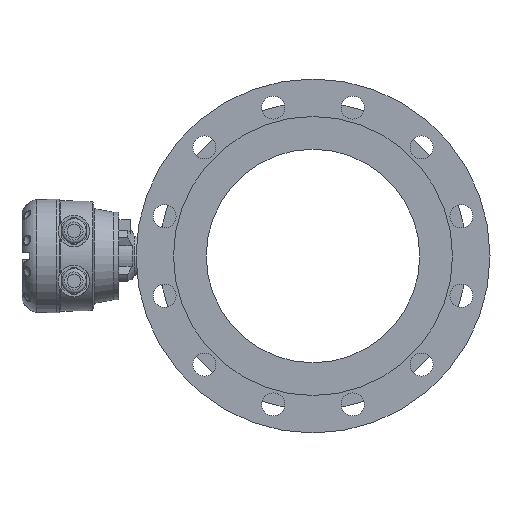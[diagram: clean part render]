
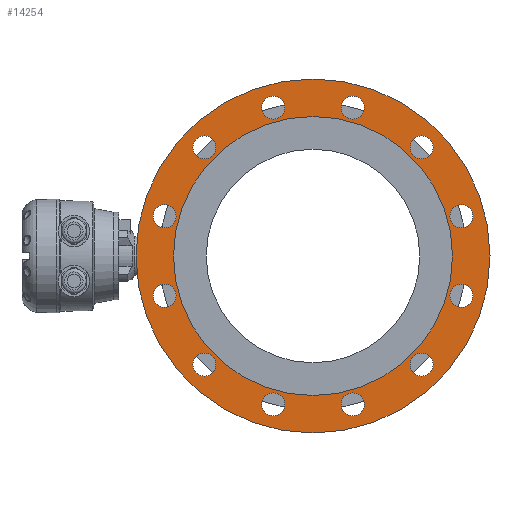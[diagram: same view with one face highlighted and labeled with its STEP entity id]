
A CAD part, left-side view. The second image highlights one B-rep face of the part: STEP entity #14254.
In plain terms, the highlighted planar face has unit normal (-1, 0, 0).
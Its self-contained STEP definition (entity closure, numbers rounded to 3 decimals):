
#1563 = EDGE_CURVE ( 'NONE', #5989, #5989, #8897, .T. ) ;
#1615 = EDGE_CURVE ( 'NONE', #6005, #6005, #8954, .T. ) ;
#3772 = EDGE_CURVE ( 'NONE', #6057, #6057, #6652, .T. ) ;
#3794 = EDGE_CURVE ( 'NONE', #6061, #6061, #6675, .T. ) ;
#3802 = EDGE_CURVE ( 'NONE', #6065, #6065, #6682, .T. ) ;
#3905 = EDGE_CURVE ( 'NONE', #6089, #6089, #6760, .T. ) ;
#3969 = EDGE_CURVE ( 'NONE', #6097, #6097, #6812, .T. ) ;
#4000 = EDGE_CURVE ( 'NONE', #6103, #6103, #6857, .T. ) ;
#4019 = EDGE_CURVE ( 'NONE', #6109, #6109, #6882, .T. ) ;
#4037 = EDGE_CURVE ( 'NONE', #6117, #6117, #6909, .T. ) ;
#4047 = EDGE_CURVE ( 'NONE', #6119, #6119, #6912, .T. ) ;
#4069 = EDGE_CURVE ( 'NONE', #6121, #6121, #6920, .T. ) ;
#4320 = EDGE_CURVE ( 'NONE', #6145, #6145, #7063, .T. ) ;
#4475 = DIRECTION ( 'NONE',  ( 0., 0., 1. ) ) ;
#4480 = DIRECTION ( 'NONE',  ( -1., 0., 0. ) ) ;
#4505 = CARTESIAN_POINT ( 'NONE',  ( -164.805, -322.491, 27.633 ) ) ;
#5082 = PLANE ( 'NONE',  #12864 ) ;
#5086 = CARTESIAN_POINT ( 'NONE',  ( -164.805, -180.017, -10.543 ) ) ;
#5087 = DIRECTION ( 'NONE',  ( -1., 0., 0. ) ) ;
#5088 = DIRECTION ( 'NONE',  ( 0., 0., -1. ) ) ;
#5989 = VERTEX_POINT ( 'NONE', #5990 ) ;
#5990 = CARTESIAN_POINT ( 'NONE',  ( -164.805, -218.193, -142.017 ) ) ;
#6005 = VERTEX_POINT ( 'NONE', #6006 ) ;
#6006 = CARTESIAN_POINT ( 'NONE',  ( -164.805, -322.491, 38.633 ) ) ;
#6057 = VERTEX_POINT ( 'NONE', #6058 ) ;
#6058 = CARTESIAN_POINT ( 'NONE',  ( -164.805, -141.841, 142.931 ) ) ;
#6061 = VERTEX_POINT ( 'NONE', #6062 ) ;
#6062 = CARTESIAN_POINT ( 'NONE',  ( -164.805, -37.543, 38.633 ) ) ;
#6065 = VERTEX_POINT ( 'NONE', #6066 ) ;
#6066 = CARTESIAN_POINT ( 'NONE',  ( -164.805, -218.193, 142.931 ) ) ;
#6089 = VERTEX_POINT ( 'NONE', #6090 ) ;
#6090 = CARTESIAN_POINT ( 'NONE',  ( -164.805, -284.315, 104.756 ) ) ;
#6097 = VERTEX_POINT ( 'NONE', #6098 ) ;
#6098 = CARTESIAN_POINT ( 'NONE',  ( -164.805, -37.543, -37.719 ) ) ;
#6103 = VERTEX_POINT ( 'NONE', #6104 ) ;
#6104 = CARTESIAN_POINT ( 'NONE',  ( -164.805, -141.841, -142.017 ) ) ;
#6109 = VERTEX_POINT ( 'NONE', #6110 ) ;
#6110 = CARTESIAN_POINT ( 'NONE',  ( -164.805, -284.315, -103.841 ) ) ;
#6117 = VERTEX_POINT ( 'NONE', #6118 ) ;
#6118 = CARTESIAN_POINT ( 'NONE',  ( -164.805, -75.719, 104.756 ) ) ;
#6119 = VERTEX_POINT ( 'NONE', #6120 ) ;
#6120 = CARTESIAN_POINT ( 'NONE',  ( -164.805, -75.719, -103.841 ) ) ;
#6121 = VERTEX_POINT ( 'NONE', #6122 ) ;
#6122 = CARTESIAN_POINT ( 'NONE',  ( -164.805, -322.491, -37.719 ) ) ;
#6145 = VERTEX_POINT ( 'NONE', #6146 ) ;
#6146 = CARTESIAN_POINT ( 'NONE',  ( -164.805, -180.017, -180.543 ) ) ;
#6149 = VERTEX_POINT ( 'NONE', #6150 ) ;
#6150 = CARTESIAN_POINT ( 'NONE',  ( -164.805, -180.017, -144.543 ) ) ;
#6204 = EDGE_CURVE ( 'NONE', #6149, #6149, #7075, .T. ) ;
#6212 = CARTESIAN_POINT ( 'NONE',  ( -164.805, -218.193, -153.017 ) ) ;
#6401 = DIRECTION ( 'NONE',  ( -1., 0., 0. ) ) ;
#6510 = DIRECTION ( 'NONE',  ( 0., 0., 1. ) ) ;
#6652 = CIRCLE ( 'NONE', #12409, 11. ) ;
#6675 = CIRCLE ( 'NONE', #12426, 11. ) ;
#6682 = CIRCLE ( 'NONE', #12429, 11. ) ;
#6760 = CIRCLE ( 'NONE', #12439, 11. ) ;
#6812 = CIRCLE ( 'NONE', #12446, 11. ) ;
#6857 = CIRCLE ( 'NONE', #12448, 11. ) ;
#6882 = CIRCLE ( 'NONE', #12453, 11. ) ;
#6909 = CIRCLE ( 'NONE', #12449, 11. ) ;
#6912 = CIRCLE ( 'NONE', #12457, 11. ) ;
#6920 = CIRCLE ( 'NONE', #12455, 11. ) ;
#7063 = CIRCLE ( 'NONE', #12475, 170. ) ;
#7075 = CIRCLE ( 'NONE', #12476, 134. ) ;
#8641 = ORIENTED_EDGE ( 'NONE', *, *, #3794, .F. ) ;
#8642 = ORIENTED_EDGE ( 'NONE', *, *, #4037, .F. ) ;
#8643 = ORIENTED_EDGE ( 'NONE', *, *, #3772, .F. ) ;
#8644 = ORIENTED_EDGE ( 'NONE', *, *, #3802, .F. ) ;
#8645 = ORIENTED_EDGE ( 'NONE', *, *, #3905, .F. ) ;
#8646 = ORIENTED_EDGE ( 'NONE', *, *, #1615, .F. ) ;
#8647 = ORIENTED_EDGE ( 'NONE', *, *, #4069, .F. ) ;
#8648 = ORIENTED_EDGE ( 'NONE', *, *, #4019, .F. ) ;
#8649 = ORIENTED_EDGE ( 'NONE', *, *, #1563, .F. ) ;
#8650 = ORIENTED_EDGE ( 'NONE', *, *, #4000, .F. ) ;
#8651 = ORIENTED_EDGE ( 'NONE', *, *, #4047, .F. ) ;
#8652 = ORIENTED_EDGE ( 'NONE', *, *, #3969, .F. ) ;
#8653 = ORIENTED_EDGE ( 'NONE', *, *, #4320, .F. ) ;
#8654 = ORIENTED_EDGE ( 'NONE', *, *, #6204, .T. ) ;
#8897 = CIRCLE ( 'NONE', #12360, 11. ) ;
#8954 = CIRCLE ( 'NONE', #12377, 11. ) ;
#9047 = CARTESIAN_POINT ( 'NONE',  ( -164.805, -141.841, 131.931 ) ) ;
#9050 = DIRECTION ( 'NONE',  ( -1., 0., 0. ) ) ;
#9051 = DIRECTION ( 'NONE',  ( 0., 0., 1. ) ) ;
#9102 = CARTESIAN_POINT ( 'NONE',  ( -164.805, -37.543, 27.633 ) ) ;
#9104 = DIRECTION ( 'NONE',  ( -1., 0., 0. ) ) ;
#9105 = DIRECTION ( 'NONE',  ( 0., 0., 1. ) ) ;
#9111 = CARTESIAN_POINT ( 'NONE',  ( -164.805, -218.193, 131.931 ) ) ;
#9122 = DIRECTION ( 'NONE',  ( -1., 0., 0. ) ) ;
#9123 = DIRECTION ( 'NONE',  ( 0., 0., 1. ) ) ;
#9228 = CARTESIAN_POINT ( 'NONE',  ( -164.805, -284.315, 93.756 ) ) ;
#9230 = DIRECTION ( 'NONE',  ( -1., 0., 0. ) ) ;
#9231 = DIRECTION ( 'NONE',  ( 0., 0., 1. ) ) ;
#9322 = CARTESIAN_POINT ( 'NONE',  ( -164.805, -37.543, -48.719 ) ) ;
#9323 = DIRECTION ( 'NONE',  ( -1., 0., 0. ) ) ;
#9324 = DIRECTION ( 'NONE',  ( 0., 0., 1. ) ) ;
#9370 = CARTESIAN_POINT ( 'NONE',  ( -164.805, -141.841, -153.017 ) ) ;
#9380 = DIRECTION ( 'NONE',  ( -1., 0., 0. ) ) ;
#9381 = DIRECTION ( 'NONE',  ( 0., 0., 1. ) ) ;
#9409 = CARTESIAN_POINT ( 'NONE',  ( -164.805, -284.315, -114.841 ) ) ;
#9413 = DIRECTION ( 'NONE',  ( -1., 0., 0. ) ) ;
#9414 = DIRECTION ( 'NONE',  ( 0., 0., 1. ) ) ;
#9454 = CARTESIAN_POINT ( 'NONE',  ( -164.805, -75.719, 93.756 ) ) ;
#9457 = DIRECTION ( 'NONE',  ( -1., 0., 0. ) ) ;
#9458 = DIRECTION ( 'NONE',  ( 0., 0., 1. ) ) ;
#9461 = CARTESIAN_POINT ( 'NONE',  ( -164.805, -75.719, -114.841 ) ) ;
#9462 = DIRECTION ( 'NONE',  ( -1., 0., 0. ) ) ;
#9463 = DIRECTION ( 'NONE',  ( 0., 0., 1. ) ) ;
#9474 = CARTESIAN_POINT ( 'NONE',  ( -164.805, -322.491, -48.719 ) ) ;
#9475 = DIRECTION ( 'NONE',  ( -1., 0., 0. ) ) ;
#9476 = DIRECTION ( 'NONE',  ( 0., 0., 1. ) ) ;
#9804 = CARTESIAN_POINT ( 'NONE',  ( -164.805, -180.017, -10.543 ) ) ;
#9805 = DIRECTION ( 'NONE',  ( 1., 0., 0. ) ) ;
#9806 = DIRECTION ( 'NONE',  ( 0., 0., -1. ) ) ;
#9842 = CARTESIAN_POINT ( 'NONE',  ( -164.805, -180.017, -10.543 ) ) ;
#9845 = DIRECTION ( 'NONE',  ( 1., 0., 0. ) ) ;
#9847 = DIRECTION ( 'NONE',  ( 0., 0., -1. ) ) ;
#11571 = FACE_BOUND ( 'NONE', #13619, .T. ) ;
#11574 = FACE_BOUND ( 'NONE', #13580, .T. ) ;
#11581 = FACE_BOUND ( 'NONE', #13617, .T. ) ;
#11584 = FACE_BOUND ( 'NONE', #13626, .T. ) ;
#11586 = FACE_BOUND ( 'NONE', #13609, .T. ) ;
#11588 = FACE_BOUND ( 'NONE', #13620, .T. ) ;
#11590 = FACE_BOUND ( 'NONE', #13610, .T. ) ;
#11592 = FACE_BOUND ( 'NONE', #13622, .T. ) ;
#11595 = FACE_BOUND ( 'NONE', #13615, .T. ) ;
#11596 = FACE_BOUND ( 'NONE', #13623, .T. ) ;
#11598 = FACE_BOUND ( 'NONE', #13628, .T. ) ;
#11600 = FACE_BOUND ( 'NONE', #13635, .T. ) ;
#11602 = FACE_OUTER_BOUND ( 'NONE', #13636, .T. ) ;
#11604 = FACE_BOUND ( 'NONE', #13637, .T. ) ;
#12360 = AXIS2_PLACEMENT_3D ( 'NONE', #6212, #6401, #6510 ) ;
#12377 = AXIS2_PLACEMENT_3D ( 'NONE', #4505, #4480, #4475 ) ;
#12409 = AXIS2_PLACEMENT_3D ( 'NONE', #9047, #9050, #9051 ) ;
#12426 = AXIS2_PLACEMENT_3D ( 'NONE', #9102, #9104, #9105 ) ;
#12429 = AXIS2_PLACEMENT_3D ( 'NONE', #9111, #9122, #9123 ) ;
#12439 = AXIS2_PLACEMENT_3D ( 'NONE', #9228, #9230, #9231 ) ;
#12446 = AXIS2_PLACEMENT_3D ( 'NONE', #9322, #9323, #9324 ) ;
#12448 = AXIS2_PLACEMENT_3D ( 'NONE', #9370, #9380, #9381 ) ;
#12449 = AXIS2_PLACEMENT_3D ( 'NONE', #9454, #9457, #9458 ) ;
#12453 = AXIS2_PLACEMENT_3D ( 'NONE', #9409, #9413, #9414 ) ;
#12455 = AXIS2_PLACEMENT_3D ( 'NONE', #9474, #9475, #9476 ) ;
#12457 = AXIS2_PLACEMENT_3D ( 'NONE', #9461, #9462, #9463 ) ;
#12475 = AXIS2_PLACEMENT_3D ( 'NONE', #9804, #9805, #9806 ) ;
#12476 = AXIS2_PLACEMENT_3D ( 'NONE', #9842, #9845, #9847 ) ;
#12864 = AXIS2_PLACEMENT_3D ( 'NONE', #5086, #5087, #5088 ) ;
#13580 = EDGE_LOOP ( 'NONE', ( #8641 ) ) ;
#13609 = EDGE_LOOP ( 'NONE', ( #8642 ) ) ;
#13610 = EDGE_LOOP ( 'NONE', ( #8643 ) ) ;
#13615 = EDGE_LOOP ( 'NONE', ( #8644 ) ) ;
#13617 = EDGE_LOOP ( 'NONE', ( #8645 ) ) ;
#13619 = EDGE_LOOP ( 'NONE', ( #8646 ) ) ;
#13620 = EDGE_LOOP ( 'NONE', ( #8647 ) ) ;
#13622 = EDGE_LOOP ( 'NONE', ( #8648 ) ) ;
#13623 = EDGE_LOOP ( 'NONE', ( #8649 ) ) ;
#13626 = EDGE_LOOP ( 'NONE', ( #8650 ) ) ;
#13628 = EDGE_LOOP ( 'NONE', ( #8651 ) ) ;
#13635 = EDGE_LOOP ( 'NONE', ( #8652 ) ) ;
#13636 = EDGE_LOOP ( 'NONE', ( #8653 ) ) ;
#13637 = EDGE_LOOP ( 'NONE', ( #8654 ) ) ;
#14254 = ADVANCED_FACE ( 'NONE', ( #11574, #11586, #11590, #11595, #11581, #11571, #11588, #11592, #11596, #11584, #11598, #11600, #11602, #11604 ), #5082, .T. ) ;
